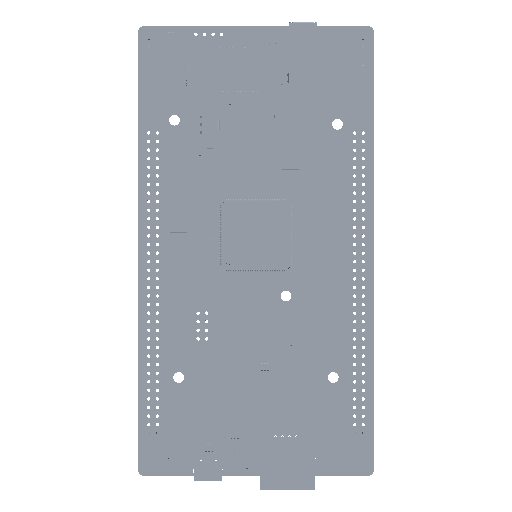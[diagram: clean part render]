
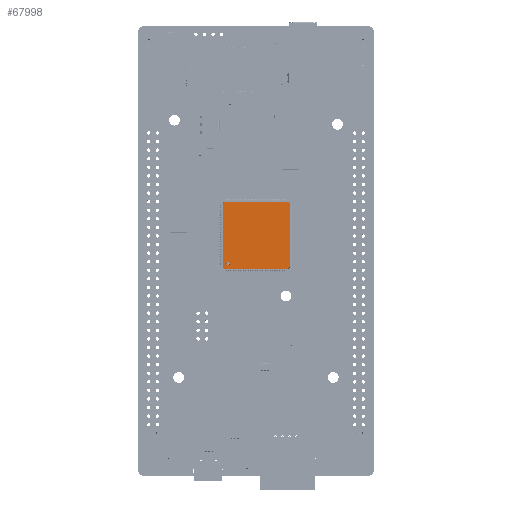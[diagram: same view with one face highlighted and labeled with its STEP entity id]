
A CAD part, top view. The second image highlights one B-rep face of the part: STEP entity #67998.
In plain terms, the highlighted planar face has unit normal (0, 0, 1) as drawn and (0, 1, 0) by its records, which use the part's own axes.
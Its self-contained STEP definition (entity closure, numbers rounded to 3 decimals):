
#56247 = VERTEX_POINT('',#56248);
#56248 = CARTESIAN_POINT('',(6.248,0.625,-17.674));
#56254 = EDGE_CURVE('',#56255,#56247,#56257,.T.);
#56255 = VERTEX_POINT('',#56256);
#56256 = CARTESIAN_POINT('',(6.248,0.625,-18.679));
#56257 = CIRCLE('',#56258,0.503);
#56258 = AXIS2_PLACEMENT_3D('',#56259,#56260,#56261);
#56259 = CARTESIAN_POINT('',(6.248,0.625,-18.176));
#56260 = DIRECTION('',(0.,1.,0.));
#56261 = DIRECTION('',(0.,-0.,1.));
#66870 = EDGE_CURVE('',#66871,#66873,#66875,.T.);
#66871 = VERTEX_POINT('',#66872);
#66872 = CARTESIAN_POINT('',(7.767,0.625,-0.342));
#66873 = VERTEX_POINT('',#66874);
#66874 = CARTESIAN_POINT('',(7.767,0.625,-19.117));
#66875 = LINE('',#66876,#66877);
#66876 = CARTESIAN_POINT('',(7.767,0.625,0.278));
#66877 = VECTOR('',#66878,1.);
#66878 = DIRECTION('',(-0.,-0.,-1.));
#67155 = VERTEX_POINT('',#67156);
#67156 = CARTESIAN_POINT('',(-11.532,0.625,-19.625));
#67162 = EDGE_CURVE('',#67163,#67155,#67165,.T.);
#67163 = VERTEX_POINT('',#67164);
#67164 = CARTESIAN_POINT('',(7.243,0.625,-19.625));
#67165 = LINE('',#67166,#67167);
#67166 = CARTESIAN_POINT('',(7.864,0.625,-19.625));
#67167 = VECTOR('',#67168,1.);
#67168 = DIRECTION('',(-1.,-0.,-0.));
#67438 = VERTEX_POINT('',#67439);
#67439 = CARTESIAN_POINT('',(-12.039,0.625,-0.326));
#67445 = EDGE_CURVE('',#67446,#67438,#67448,.T.);
#67446 = VERTEX_POINT('',#67447);
#67447 = CARTESIAN_POINT('',(-12.039,0.625,-19.101));
#67448 = LINE('',#67449,#67450);
#67449 = CARTESIAN_POINT('',(-12.039,0.625,0.278));
#67450 = VECTOR('',#67451,1.);
#67451 = DIRECTION('',(-0.,-0.,1.));
#67721 = VERTEX_POINT('',#67722);
#67722 = CARTESIAN_POINT('',(7.259,0.625,0.181));
#67728 = EDGE_CURVE('',#67729,#67721,#67731,.T.);
#67729 = VERTEX_POINT('',#67730);
#67730 = CARTESIAN_POINT('',(-11.516,0.625,0.181));
#67731 = LINE('',#67732,#67733);
#67732 = CARTESIAN_POINT('',(7.864,0.625,0.181));
#67733 = VECTOR('',#67734,1.);
#67734 = DIRECTION('',(1.,-0.,-0.));
#67998 = ADVANCED_FACE('',(#67999,#68009),#68039,.T.);
#67999 = FACE_BOUND('',#68000,.T.);
#68000 = EDGE_LOOP('',(#68001,#68008));
#68001 = ORIENTED_EDGE('',*,*,#68002,.F.);
#68002 = EDGE_CURVE('',#56247,#56255,#68003,.T.);
#68003 = CIRCLE('',#68004,0.503);
#68004 = AXIS2_PLACEMENT_3D('',#68005,#68006,#68007);
#68005 = CARTESIAN_POINT('',(6.248,0.625,-18.176));
#68006 = DIRECTION('',(0.,1.,0.));
#68007 = DIRECTION('',(0.,-0.,1.));
#68008 = ORIENTED_EDGE('',*,*,#56254,.F.);
#68009 = FACE_BOUND('',#68010,.T.);
#68010 = EDGE_LOOP('',(#68011,#68012,#68018,#68019,#68025,#68026,#68032,
    #68033));
#68011 = ORIENTED_EDGE('',*,*,#67728,.T.);
#68012 = ORIENTED_EDGE('',*,*,#68013,.T.);
#68013 = EDGE_CURVE('',#67721,#66871,#68014,.T.);
#68014 = LINE('',#68015,#68016);
#68015 = CARTESIAN_POINT('',(3.833,0.625,3.716));
#68016 = VECTOR('',#68017,1.);
#68017 = DIRECTION('',(0.696,-0.,-0.718));
#68018 = ORIENTED_EDGE('',*,*,#66870,.T.);
#68019 = ORIENTED_EDGE('',*,*,#68020,.T.);
#68020 = EDGE_CURVE('',#66873,#67163,#68021,.T.);
#68021 = LINE('',#68022,#68023);
#68022 = CARTESIAN_POINT('',(13.317,0.625,-13.737));
#68023 = VECTOR('',#68024,1.);
#68024 = DIRECTION('',(-0.718,-0.,-0.696));
#68025 = ORIENTED_EDGE('',*,*,#67162,.T.);
#68026 = ORIENTED_EDGE('',*,*,#68027,.T.);
#68027 = EDGE_CURVE('',#67155,#67446,#68028,.T.);
#68028 = LINE('',#68029,#68030);
#68029 = CARTESIAN_POINT('',(-15.753,0.625,-15.271));
#68030 = VECTOR('',#68031,1.);
#68031 = DIRECTION('',(-0.696,-0.,0.718));
#68032 = ORIENTED_EDGE('',*,*,#67445,.T.);
#68033 = ORIENTED_EDGE('',*,*,#68034,.T.);
#68034 = EDGE_CURVE('',#67438,#67729,#68035,.T.);
#68035 = LINE('',#68036,#68037);
#68036 = CARTESIAN_POINT('',(-5.67,0.625,5.849));
#68037 = VECTOR('',#68038,1.);
#68038 = DIRECTION('',(0.718,-0.,0.696));
#68039 = PLANE('',#68040);
#68040 = AXIS2_PLACEMENT_3D('',#68041,#68042,#68043);
#68041 = CARTESIAN_POINT('',(0.,0.625,0.));
#68042 = DIRECTION('',(0.,1.,0.));
#68043 = DIRECTION('',(0.,-0.,1.));
